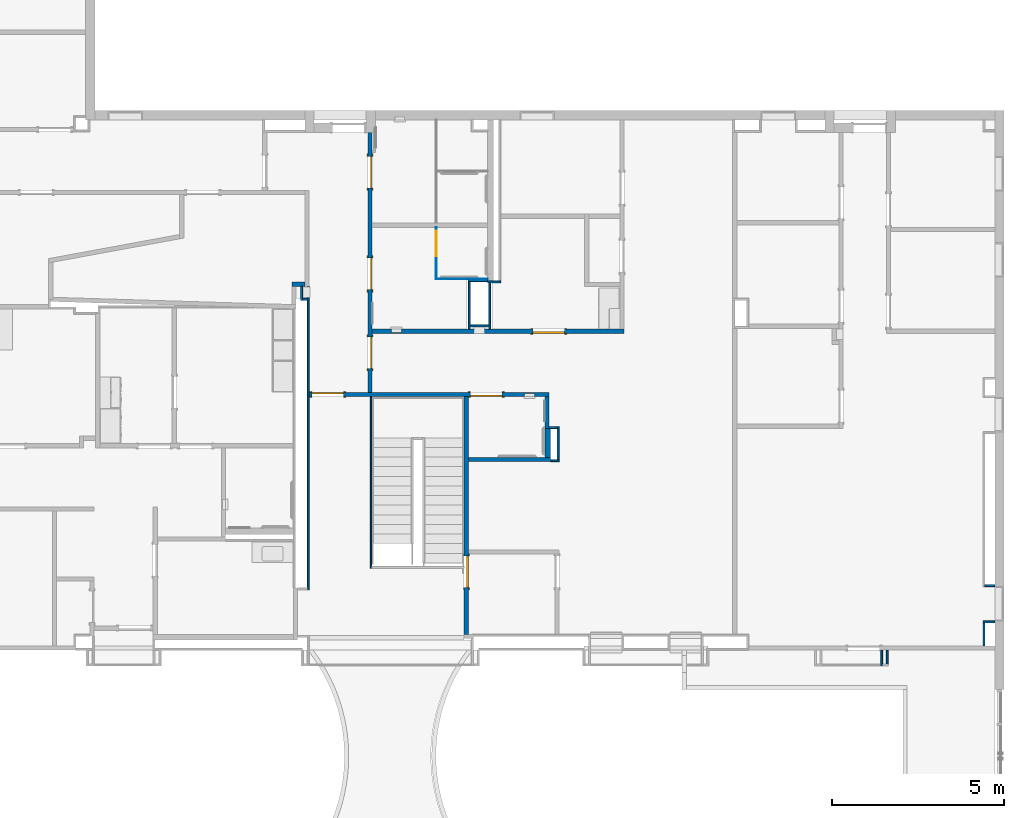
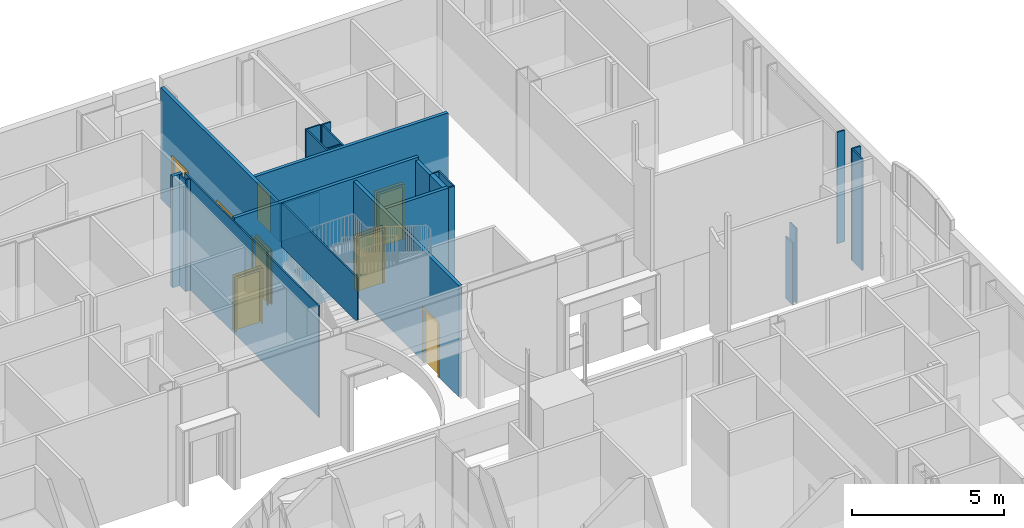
# One storey, part 39 of 87: 27 walls, 8 doors, 10 openings.
"""IFC2X3 building model written with IfcOpenShell, lengths in metres."""

import ifcopenshell
import ifcopenshell.guid

model = None  # the IFC model being written
_history = None  # IfcOwnerHistory: only IFC2X3 demands one
_inside = {}  # id of a spatial element -> (the spatial element, [elements in it])
_under = {}  # id of a project, library or spatial element -> (it, [spatial elements below it])
_declared = {}  # id of a project -> (the project, [libraries it declares])
_typed = {}  # id of a type object -> (the type object, [elements of that type])
_made_of = {}  # id of a material, layer set ... -> (it, [elements and type objects made of it])


def new_model(schema):
    """Start an empty IFC model of exactly this schema.

    Asked for "IFC4X3", IfcOpenShell would pick the latest addendum, in which some entities
    have other attributes; the version numbers below select the first issue.
    IFC2X3 requires an IfcOwnerHistory on every rooted entity: one is made here for all.
    """
    global model, _history
    if schema == "IFC4X3":
        model = ifcopenshell.file(schema_version=(4, 3, 0, 0))
    else:
        model = ifcopenshell.file(schema=schema)
    _inside.clear()
    _under.clear()
    _declared.clear()
    _typed.clear()
    _made_of.clear()
    _history = None
    if model.schema == "IFC2X3":
        org = make("IfcOrganization", Name="unknown")
        user = make(
            "IfcPersonAndOrganization",
            ThePerson=make("IfcPerson", FamilyName="unknown"),
            TheOrganization=org,
        )
        app = make(
            "IfcApplication",
            ApplicationDeveloper=org,
            Version="unknown",
            ApplicationFullName="unknown",
            ApplicationIdentifier="unknown",
        )
        _history = make(
            "IfcOwnerHistory",
            OwningUser=user,
            OwningApplication=app,
            ChangeAction="ADDED",
            CreationDate=0,
        )
    return model


def make(cls, **values):
    """One entity of the class cls with the attributes given. An attribute that is None is left unset."""
    return model.create_entity(
        cls, **{name: value for name, value in values.items() if value is not None}
    )


def entity(cls, *values):
    """Any entity or typed value of the class cls, its attributes in the order of the schema. None: left unset."""
    e = model.create_entity(cls)
    for i, value in enumerate(values):
        if value is not None:
            e[i] = value
    return e


def rooted(cls, **values):
    """An entity with a GlobalId (a new one), such as an element, a storey or a relation."""
    return make(cls, GlobalId=ifcopenshell.guid.new(), OwnerHistory=_history, **values)


def si_unit(unit_type, name, prefix=None):
    """IfcSIUnit, for example si_unit("LENGTHUNIT", "METRE", prefix="MILLI")."""
    return make("IfcSIUnit", UnitType=unit_type, Prefix=prefix, Name=name)


def converted_unit(unit_type, name, factor, base, dimensions=None, offset=None):
    """IfcConversionBasedUnit, such as the inch: factor (a typed value) times the base unit."""
    return make(
        "IfcConversionBasedUnit"
        if offset is None
        else "IfcConversionBasedUnitWithOffset",
        ConversionOffset=offset,
        Dimensions=None
        if dimensions is None
        else entity("IfcDimensionalExponents", *dimensions),
        UnitType=unit_type,
        Name=name,
        ConversionFactor=make(
            "IfcMeasureWithUnit", ValueComponent=factor, UnitComponent=base
        ),
    )


def assignment(units):
    """IfcUnitAssignment: the units of a project."""
    return None if units is None else make("IfcUnitAssignment", Units=units)


def point(xyz):
    """IfcCartesianPoint."""
    return None if xyz is None else make("IfcCartesianPoint", Coordinates=xyz)


def direction(xyz):
    """IfcDirection."""
    return None if xyz is None else make("IfcDirection", DirectionRatios=xyz)


def frame(location, z_axis=None, x_axis=None):
    """IfcAxis2Placement3D, a coordinate frame: its origin and axes. An axis left out is left unset."""
    return make(
        "IfcAxis2Placement3D",
        Location=point(location),
        Axis=direction(z_axis),
        RefDirection=direction(x_axis),
    )


def frame_2d(location, x_axis=None):
    """IfcAxis2Placement2D, a coordinate frame in the plane: its origin and x axis."""
    return make(
        "IfcAxis2Placement2D", Location=point(location), RefDirection=direction(x_axis)
    )


def origin():
    """The frame at (0, 0, 0) with its axes left unset."""
    return frame((0.0, 0.0, 0.0))


def origin_2d_with_axis():
    """The frame at (0, 0) in the plane with the x axis (1, 0) written out."""
    return frame_2d((0.0, 0.0), x_axis=(1.0, 0.0))


def place(relative_to, where):
    """IfcLocalPlacement: puts the frame where relative to a parent placement (None: the world)."""
    return make(
        "IfcLocalPlacement", PlacementRelTo=relative_to, RelativePlacement=where
    )


def context(
    kind, dimensions, precision=None, world=None, true_north=None, identifier=None
):
    """IfcGeometricRepresentationContext, for example the 3D "Model" context."""
    return make(
        "IfcGeometricRepresentationContext",
        ContextIdentifier=identifier,
        ContextType=kind,
        CoordinateSpaceDimension=dimensions,
        Precision=precision,
        WorldCoordinateSystem=world,
        TrueNorth=true_north,
    )


def project(units=None, contexts=None):
    """IfcProject with its units and contexts."""
    return rooted(
        "IfcProject",
        Name="project",
        RepresentationContexts=contexts,
        UnitsInContext=assignment(units),
    )


def spatial(cls, under=None, at=None, **own):
    """A site, building, storey or space (cls), placed at a placement, below another one or the project."""
    s = rooted(cls, ObjectPlacement=at, **own)
    if under is not None:
        _under.setdefault(under.id(), (under, []))[1].append(s)
    return s


def polyline(points):
    """IfcPolyline through the points."""
    return make("IfcPolyline", Points=[point(p) for p in points])


def profile(cls, at=None, kind="AREA", **sizes):
    """A parametric profile (cls). Its sizes go by their IFC names, for example OverallWidth=200.0."""
    return make(cls, ProfileType=kind, Position=at, **sizes)


def rectangle(**sizes):
    """IfcRectangleProfileDef."""
    return profile("IfcRectangleProfileDef", **sizes)


def outline(outer, holes=None, kind="AREA"):
    """IfcArbitraryClosedProfileDef: a profile drawn as a closed curve; with holes, ...WithVoids."""
    if holes is None:
        return make("IfcArbitraryClosedProfileDef", ProfileType=kind, OuterCurve=outer)
    return make(
        "IfcArbitraryProfileDefWithVoids",
        ProfileType=kind,
        OuterCurve=outer,
        InnerCurves=holes,
    )


def extrude(swept, where, along, depth):
    """IfcExtrudedAreaSolid: the profile swept, set in the frame where, extruded along a direction by depth."""
    return make(
        "IfcExtrudedAreaSolid",
        SweptArea=swept,
        Position=where,
        ExtrudedDirection=direction(along),
        Depth=depth,
    )


def shape(context_of_items, identifier, shape_type, items):
    """IfcShapeRepresentation: the items that make up one representation, for example the "Body"."""
    return make(
        "IfcShapeRepresentation",
        ContextOfItems=context_of_items,
        RepresentationIdentifier=identifier,
        RepresentationType=shape_type,
        Items=items,
    )


def source(mapping_origin, context_of_items, identifier, shape_type, items):
    """IfcRepresentationMap: a shape defined once, which mapped items show again and again."""
    return make(
        "IfcRepresentationMap",
        MappingOrigin=mapping_origin,
        MappedRepresentation=shape(context_of_items, identifier, shape_type, items),
    )


def transform(
    local_origin,
    x_axis=None,
    y_axis=None,
    z_axis=None,
    scale=None,
    scale2=None,
    scale3=None,
    uniform=True,
):
    """IfcCartesianTransformationOperator3D, or its non-uniform kind. x_axis, y_axis, z_axis: its Axis1, 2, 3."""
    if uniform:
        return make(
            "IfcCartesianTransformationOperator3D",
            Axis1=direction(x_axis),
            Axis2=direction(y_axis),
            LocalOrigin=point(local_origin),
            Scale=scale,
            Axis3=direction(z_axis),
        )
    return make(
        "IfcCartesianTransformationOperator3DnonUniform",
        Axis1=direction(x_axis),
        Axis2=direction(y_axis),
        LocalOrigin=point(local_origin),
        Scale=scale,
        Axis3=direction(z_axis),
        Scale2=scale2,
        Scale3=scale3,
    )


def mapped(mapping_source, mapping_target):
    """IfcMappedItem: shows the shape of a source again, moved by a transform."""
    return make(
        "IfcMappedItem", MappingSource=mapping_source, MappingTarget=mapping_target
    )


def material(Name=None, Category=None):
    """IfcMaterial."""
    return make("IfcMaterial", Name=Name, Category=Category)


def layer(
    of_material, thickness, ventilated=None, Name=None, Category=None, Priority=None
):
    """IfcMaterialLayer: one layer of a wall or slab, of a material (None: an air gap)."""
    return make(
        "IfcMaterialLayer",
        Material=of_material,
        LayerThickness=thickness,
        IsVentilated=ventilated,
        Name=Name,
        Category=Category,
        Priority=Priority,
    )


def layer_set(layers, Name=None):
    """IfcMaterialLayerSet."""
    return make("IfcMaterialLayerSet", MaterialLayers=layers, LayerSetName=Name)


def layer_usage(for_layer_set, set_direction, sense, offset, extent=None):
    """IfcMaterialLayerSetUsage: how a layer set lies in its element."""
    return make(
        "IfcMaterialLayerSetUsage",
        ForLayerSet=for_layer_set,
        LayerSetDirection=set_direction,
        DirectionSense=sense,
        OffsetFromReferenceLine=offset,
        ReferenceExtent=extent,
    )


def made_of(thing, what):
    """Note that an element or type object is made of a material, layer set ...; save() writes the relation."""
    if what is not None:
        _made_of.setdefault(what.id(), (what, []))[1].append(thing)
    return thing


def type_object(cls, material=None, **own):
    """A type object (cls), such as IfcWallType, which elements share."""
    return made_of(rooted(cls, **own), material)


def type_shapes(of_type, sources):
    """Give a type object the sources (RepresentationMaps) that its elements show as mapped items."""
    of_type.RepresentationMaps = sources


def element(
    cls,
    number,
    at=None,
    inside=None,
    cuts=None,
    type_object=None,
    material=None,
    context=None,
    identifier="Body",
    shape_type=None,
    held_by="IfcProductDefinitionShape",
    body=None,
    shapes=None,
    **own,
):
    """One element of the class cls, such as IfcWall. Its Tag is "e" and its number.

    at: its placement. inside: the storey or other place that contains it. cuts: it is an
    opening in that element (IfcRelVoidsElement). A single representation is given by context,
    identifier, shape_type and body (its items); several are given by shapes. held_by: the class
    of the entity that holds the representations. save() writes the other relations.
    """
    e = rooted(cls, Tag="e%d" % number, ObjectPlacement=at, **own)
    if body is not None:
        shapes = [shape(context, identifier, shape_type, body)]
    if shapes is not None:
        e.Representation = make(held_by, Representations=shapes)
    if inside is not None:
        _inside.setdefault(inside.id(), (inside, []))[1].append(e)
    if cuts is not None:
        rooted(
            "IfcRelVoidsElement", RelatingBuildingElement=cuts, RelatedOpeningElement=e
        )
    if type_object is not None:
        _typed.setdefault(type_object.id(), (type_object, []))[1].append(e)
    return made_of(e, material)


def fill(opening, filler):
    """IfcRelFillsElement: the door or window that sits in an opening."""
    return rooted(
        "IfcRelFillsElement",
        RelatingOpeningElement=opening,
        RelatedBuildingElement=filler,
    )


def aggregate(whole, parts):
    """IfcRelAggregates: a whole, such as a stair, and the parts it consists of."""
    return rooted("IfcRelAggregates", RelatingObject=whole, RelatedObjects=parts)


def save(model, path):
    """Write the relations noted so far, then the file.

    IfcRelAggregates (storeys below a building ...), IfcRelContainedInSpatialStructure (elements
    in a storey), IfcRelDefinesByType, IfcRelAssociatesMaterial and IfcRelDeclares: one each for
    every whole, place, type object, material and project.
    """
    for whole, parts in _under.values():
        aggregate(whole, parts)
    for where, things in _inside.values():
        rooted(
            "IfcRelContainedInSpatialStructure",
            RelatedElements=things,
            RelatingStructure=where,
        )
    for kind, things in _typed.values():
        rooted("IfcRelDefinesByType", RelatedObjects=things, RelatingType=kind)
    for what, things in _made_of.values():
        rooted("IfcRelAssociatesMaterial", RelatedObjects=things, RelatingMaterial=what)
    for by, libraries in _declared.values():
        rooted("IfcRelDeclares", RelatingContext=by, RelatedDefinitions=libraries)
    model.write(path)


model = new_model("IFC2X3")

# Units and contexts
model_context = context("Model", 3, precision=1e-09, world=origin())
plan_context = context("Plan", 3, precision=1e-09, world=origin())
ifc_project = project(units=[si_unit("LENGTHUNIT", "METRE"), si_unit("AREAUNIT", "SQUARE_METRE"), si_unit("VOLUMEUNIT", "CUBIC_METRE"), converted_unit("PLANEANGLEUNIT", "DEGREE", entity("IfcRatioMeasure", 0.01745329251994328), si_unit("PLANEANGLEUNIT", "RADIAN"), dimensions=[0, 0, 0, 0, 0, 0, 0]), si_unit("TIMEUNIT", "SECOND")], contexts=[model_context, plan_context])

# Site, building, storey
site_placement = place(None, origin())
site = spatial("IfcSite", under=ifc_project, at=site_placement, Name="Default", CompositionType="ELEMENT")
building_placement = place(site_placement, origin())
building = spatial("IfcBuilding", under=site, at=building_placement, CompositionType="ELEMENT")
storey_placement = place(building_placement, origin())
storey = spatial("IfcBuildingStorey", under=building, at=storey_placement, Name="First Floor", CompositionType="ELEMENT", Elevation=-3.531500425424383e-13)

# Wall
ifc_material_1 = material(Name="Plasterboard")
ifc_layer_1 = layer(ifc_material_1, 0.016)
ifc_material_2 = material(Name="Metal - Stud Layer")
ifc_layer_2 = layer(ifc_material_2, 0.092)
ifc_layer_3 = layer(ifc_material_1, 0.016)
ifc_layer_set_1 = layer_set([ifc_layer_1, ifc_layer_2, ifc_layer_3], Name="Basic Wall:Interior - Partition (92mm Stud)")
ifc_layer_usage_1 = layer_usage(ifc_layer_set_1, "AXIS2", "NEGATIVE", 0.062)
wall_1_placement = place(storey_placement, frame((-19.95400000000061, 45.42199999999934, 0.0), z_axis=(0.0, 0.0, 1.0), x_axis=(-1.0, 0.0, 0.0)))
element("IfcWallStandardCase", 1, at=wall_1_placement, inside=storey, material=ifc_layer_usage_1, Name="Basic Wall:Interior - Partition (92mm Stud)", ObjectType="Basic Wall:Interior - Partition (92mm Stud)", context=model_context, shape_type="SweptSolid", body=[
    extrude(rectangle(XDim=0.3750000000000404, YDim=0.1240000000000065, at=frame_2d((0.1875000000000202, 0.0), x_axis=(-1.0, 0.0))), origin(), (0.0, 0.0, 1.0), 4.468000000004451),
])

# Wall, openings, doors
ifc_layer_usage_2 = layer_usage(ifc_layer_set_1, "AXIS2", "NEGATIVE", 0.062)
wall_2_placement = place(storey_placement, frame((-18.0580000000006, 42.28000069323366, 0.0), z_axis=(0.0, 0.0, 1.0), x_axis=(0.0, 1.0, 0.0)))
wall_2 = element("IfcWallStandardCase", 2, at=wall_2_placement, inside=storey, material=ifc_layer_usage_2, Name="Basic Wall:Interior - Partition (92mm Stud)", ObjectType="Basic Wall:Interior - Partition (92mm Stud)", context=model_context, shape_type="SweptSolid", body=[
    extrude(rectangle(XDim=7.696499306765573, YDim=0.1240000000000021, at=frame_2d((3.848249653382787, 0.0), x_axis=(-1.0, 0.0))), origin(), (0.0, 0.0, 1.0), 4.468000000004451),
])
opening_1_placement = place(wall_2_placement, frame((6.862999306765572, 0.06199999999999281, 0.0)))
opening_1 = element("IfcOpeningElement", 3, at=opening_1_placement, cuts=wall_2, Name="M_Single-Flush:0915 x 2134mm:0915 x 2134mm:1", ObjectType="Opening", context=model_context, shape_type="SweptSolid", body=[
    extrude(rectangle(XDim=0.9149999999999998, YDim=2.134, at=frame_2d((1.067, 0.4574999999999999), x_axis=(0.0, -1.0))), frame((0.0, 0.0, 0.0), z_axis=(0.0, -1.0, 0.0), x_axis=(0.0, 0.0, 1.0)), (0.0, 0.0, 1.0), 0.124),
])
opening_2_placement = place(wall_2_placement, frame((3.899999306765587, 0.06199999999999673, 0.0)))
opening_2 = element("IfcOpeningElement", 4, at=opening_2_placement, cuts=wall_2, Name="M_Single-Flush:0915 x 2134mm:0915 x 2134mm:1", ObjectType="Opening", context=model_context, shape_type="SweptSolid", body=[
    extrude(rectangle(XDim=0.9149999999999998, YDim=2.134, at=frame_2d((1.067, 0.4575), x_axis=(0.0, 1.0))), frame((0.0, 0.0, 0.0), z_axis=(0.0, -1.0, 0.0), x_axis=(0.0, 0.0, 1.0)), (0.0, 0.0, 1.0), 0.124),
])
opening_3_placement = place(wall_2_placement, frame((1.609999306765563, 0.06199999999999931, 0.0)))
opening_3 = element("IfcOpeningElement", 5, at=opening_3_placement, cuts=wall_2, Name="M_Single-Flush:0915 x 2134mm:0915 x 2134mm:1", ObjectType="Opening", context=model_context, shape_type="SweptSolid", body=[
    extrude(rectangle(XDim=0.9149999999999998, YDim=2.134, at=frame_2d((1.067, 0.4575000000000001), x_axis=(0.0, -1.0))), frame((0.0, 0.0, 0.0), z_axis=(0.0, -1.0, 0.0), x_axis=(0.0, 0.0, 1.0)), (0.0, 0.0, 1.0), 0.124),
])
door_style_1 = type_object("IfcDoorStyle", Name="0915 x 2134mm", ConstructionType="NOTDEFINED", OperationType="SINGLE_SWING_RIGHT", ParameterTakesPrecedence=False, Sizeable=False)
shared_shape_1 = source(origin(), model_context, "Body", "SweptSolid", [
    extrude(outline(polyline([(-0.5335, -1.123999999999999), (0.5334999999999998, -1.123999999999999), (0.5334999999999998, 1.086), (0.4574999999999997, 1.086), (0.4574999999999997, -1.048000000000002), (-0.4574999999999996, -1.048000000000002), (-0.4574999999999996, 1.086), (-0.5335, 1.086), (-0.5335, -1.123999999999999)])), frame((0.4575000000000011, 0.1239999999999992, 1.086), z_axis=(0.0, 1.0, 0.0), x_axis=(1.0, 0.0, 0.0)), (0.0, 0.0, 1.0), 0.02499999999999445),
    extrude(outline(polyline([(-1.123999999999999, -0.5334999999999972), (1.085999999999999, -0.5334999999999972), (1.085999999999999, -0.4575000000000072), (-1.048, -0.4575000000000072), (-1.048, 0.4575000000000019), (1.085999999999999, 0.4575000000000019), (1.085999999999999, 0.5335000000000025), (-1.123999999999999, 0.5335000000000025), (-1.123999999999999, -0.5334999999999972)])), frame((0.4575000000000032, -0.02500000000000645, 1.085999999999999), z_axis=(0.0, 1.0, 0.0), x_axis=(0.0, 0.0, -1.0)), (0.0, 0.0, 1.0), 0.02500000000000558),
    extrude(rectangle(XDim=0.051, YDim=0.9149999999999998, at=origin_2d_with_axis()), frame((0.4575000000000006, 0.09849999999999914, 0.0), z_axis=(0.0, 0.0, 1.0), x_axis=(0.0, 1.0, 0.0)), (0.0, 0.0, 1.0), 2.133999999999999),
])
type_shapes(door_style_1, [shared_shape_1])
door_1_placement = place(opening_2_placement, frame((0.0, 0.0, 0.0), z_axis=(0.0, 0.0, 1.0), x_axis=(-1.0, 0.0, 0.0)))
door_1 = element("IfcDoor", 6, at=door_1_placement, inside=storey, type_object=door_style_1, Name="M_Single-Flush:0915 x 2134mm:0915 x 2134mm", ObjectType="0915 x 2134mm", OverallHeight=2.134, OverallWidth=0.9149999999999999, context=model_context, shape_type="MappedRepresentation", body=[
    mapped(shared_shape_1, transform((0.0, 0.0, 0.0), scale=1.0)),
])
fill(opening_2, door_1)
door_style_2 = type_object("IfcDoorStyle", Name="0915 x 2134mm", ConstructionType="NOTDEFINED", OperationType="SINGLE_SWING_LEFT", ParameterTakesPrecedence=False, Sizeable=False)
shared_shape_2 = source(origin(), model_context, "Body", "SweptSolid", [
    extrude(outline(polyline([(-0.5335, -1.123999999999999), (0.5334999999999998, -1.123999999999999), (0.5334999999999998, 1.086), (0.4574999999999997, 1.086), (0.4574999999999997, -1.048000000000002), (-0.4574999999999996, -1.048000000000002), (-0.4574999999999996, 1.086), (-0.5335, 1.086), (-0.5335, -1.123999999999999)])), frame((0.4575000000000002, 0.1489999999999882, 1.086), z_axis=(0.0, -1.0, 0.0), x_axis=(-1.0, 0.0, 0.0)), (0.0, 0.0, 1.0), 0.02499999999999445),
    extrude(outline(polyline([(-1.123999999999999, -0.5334999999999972), (1.085999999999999, -0.5334999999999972), (1.085999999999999, -0.4575000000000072), (-1.048, -0.4575000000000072), (-1.048, 0.4575000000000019), (1.085999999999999, 0.4575000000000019), (1.085999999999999, 0.5335000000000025), (-1.123999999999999, 0.5335000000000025), (-1.123999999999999, -0.5334999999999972)])), frame((0.4574999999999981, 0.0, 1.085999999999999), z_axis=(0.0, -1.0, 0.0), x_axis=(0.0, 0.0, -1.0)), (0.0, 0.0, 1.0), 0.02500000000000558),
    extrude(rectangle(XDim=0.9149999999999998, YDim=0.051, at=origin_2d_with_axis()), frame((0.4575000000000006, 0.09849999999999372, 0.0)), (0.0, 0.0, 1.0), 2.133999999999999),
])
type_shapes(door_style_2, [shared_shape_2])
door_2_placement = place(opening_1_placement, frame((0.0, 0.0, 0.0), z_axis=(0.0, 0.0, 1.0), x_axis=(-1.0, 0.0, 0.0)))
door_2 = element("IfcDoor", 7, at=door_2_placement, inside=storey, type_object=door_style_2, Name="M_Single-Flush:0915 x 2134mm:0915 x 2134mm", ObjectType="0915 x 2134mm", OverallHeight=2.134, OverallWidth=0.9149999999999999, context=model_context, shape_type="MappedRepresentation", body=[
    mapped(shared_shape_2, transform((0.0, 0.0, 0.0), scale=1.0)),
])
fill(opening_1, door_2)
door_3_placement = place(opening_3_placement, frame((0.0, 0.0, 0.0), z_axis=(0.0, 0.0, 1.0), x_axis=(-1.0, 0.0, 0.0)))
door_3 = element("IfcDoor", 8, at=door_3_placement, inside=storey, type_object=door_style_2, Name="M_Single-Flush:0915 x 2134mm:0915 x 2134mm", ObjectType="0915 x 2134mm", OverallHeight=2.134, OverallWidth=0.9149999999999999, context=model_context, shape_type="MappedRepresentation", body=[
    mapped(shared_shape_2, transform((0.0, 0.0, 0.0), scale=1.0)),
])
fill(opening_3, door_3)

# Wall
ifc_layer_4 = layer(ifc_material_2, 0.038)
ifc_layer_5 = layer(ifc_material_1, 0.016)
ifc_layer_set_2 = layer_set([ifc_layer_4, ifc_layer_5], Name="Basic Wall:Interior - Furring (38 mm Stud)")
ifc_layer_usage_3 = layer_usage(ifc_layer_set_2, "AXIS2", "POSITIVE", -0.027)
wall_3_placement = place(storey_placement, frame((-14.26000000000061, 45.49200003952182, 0.0), z_axis=(0.0, 0.0, 1.0), x_axis=(-1.0, 0.0, 0.0)))
element("IfcWallStandardCase", 9, at=wall_3_placement, inside=storey, material=ifc_layer_usage_3, Name="Basic Wall:Interior - Furring (38 mm Stud)", ObjectType="Basic Wall:Interior - Furring (38 mm Stud)", context=model_context, shape_type="SweptSolid", body=[
    extrude(rectangle(XDim=0.3799999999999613, YDim=0.05400000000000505, at=frame_2d((0.1899999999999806, 0.0), x_axis=(-1.0, 0.0))), origin(), (0.0, 0.0, 1.0), 4.468000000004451),
])

# Wall, openings, door
ifc_layer_usage_4 = layer_usage(ifc_layer_set_1, "AXIS2", "NEGATIVE", 0.062)
wall_4_placement = place(storey_placement, frame((-10.67000000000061, 44.05199999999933, 0.0), z_axis=(0.0, 0.0, 1.0), x_axis=(-1.0, 0.0, 0.0)))
wall_4 = element("IfcWallStandardCase", 10, at=wall_4_placement, inside=storey, material=ifc_layer_usage_4, Name="Basic Wall:Interior - Partition (92mm Stud)", ObjectType="Basic Wall:Interior - Partition (92mm Stud)", context=model_context, shape_type="SweptSolid", body=[
    extrude(rectangle(XDim=7.325999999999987, YDim=0.1240000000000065, at=frame_2d((3.662999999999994, 0.0), x_axis=(-1.0, 0.0))), origin(), (0.0, 0.0, 1.0), 4.468000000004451),
])
opening_4_placement = place(wall_4_placement, origin())
element("IfcOpeningElement", 11, at=opening_4_placement, cuts=wall_4, ObjectType="Opening", context=model_context, shape_type="SweptSolid", body=[
    extrude(rectangle(XDim=1.362075, YDim=0.2984499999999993, at=origin_2d_with_axis()), frame((6.620900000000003, -0.1255000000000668, 1.041399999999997), z_axis=(0.0, 1.0, 0.0), x_axis=(0.0, 0.0, -1.0)), (0.0, 0.0, 1.0), 0.15240000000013),
])
opening_5_placement = place(wall_4_placement, frame((1.730999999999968, -0.06200000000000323, 0.0)))
opening_5 = element("IfcOpeningElement", 12, at=opening_5_placement, cuts=wall_4, Name="M_Single-Flush:0915 x 2134mm:0915 x 2134mm:1", ObjectType="Opening", context=model_context, shape_type="SweptSolid", body=[
    extrude(rectangle(XDim=0.9149999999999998, YDim=2.134, at=frame_2d((1.067, 0.4575), x_axis=(0.0, 1.0))), frame((0.0, 0.0, 0.0), z_axis=(0.0, 1.0, 0.0), x_axis=(0.0, 0.0, 1.0)), (0.0, 0.0, 1.0), 0.124),
])
door_4_placement = place(opening_5_placement, origin())
door_4 = element("IfcDoor", 13, at=door_4_placement, inside=storey, type_object=door_style_1, Name="M_Single-Flush:0915 x 2134mm:0915 x 2134mm", ObjectType="0915 x 2134mm", OverallHeight=2.134, OverallWidth=0.9149999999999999, context=model_context, shape_type="MappedRepresentation", body=[
    mapped(shared_shape_1, transform((0.0, 0.0, 0.0), scale=1.0)),
])
fill(opening_5, door_4)

# Wall, opening, door
ifc_layer_usage_5 = layer_usage(ifc_layer_set_1, "AXIS2", "NEGATIVE", 0.062)
wall_5_placement = place(storey_placement, frame((-15.25800000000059, 35.23999999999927, 0.0), z_axis=(0.0, 0.0, 1.0), x_axis=(0.0, 1.0, 0.0)))
wall_5 = element("IfcWallStandardCase", 14, at=wall_5_placement, inside=storey, material=ifc_layer_usage_5, Name="Basic Wall:Interior - Partition (92mm Stud)", ObjectType="Basic Wall:Interior - Partition (92mm Stud)", context=model_context, shape_type="SweptSolid", body=[
    extrude(rectangle(XDim=6.916000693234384, YDim=0.1240000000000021, at=frame_2d((3.458000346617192, 0.0), x_axis=(-1.0, 0.0))), origin(), (0.0, 0.0, 1.0), 4.46800000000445),
])
opening_6_placement = place(wall_5_placement, frame((2.275999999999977, 0.0619999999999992, 0.0)))
opening_6 = element("IfcOpeningElement", 15, at=opening_6_placement, cuts=wall_5, Name="M_Single-Flush:0915 x 2134mm:0915 x 2134mm:1", ObjectType="Opening", context=model_context, shape_type="SweptSolid", body=[
    extrude(rectangle(XDim=0.9149999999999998, YDim=2.134, at=frame_2d((1.067, 0.4575000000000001), x_axis=(0.0, -1.0))), frame((0.0, 0.0, 0.0), z_axis=(0.0, -1.0, 0.0), x_axis=(0.0, 0.0, 1.0)), (0.0, 0.0, 1.0), 0.124),
])
door_5_placement = place(opening_6_placement, frame((0.0, 0.0, 0.0), z_axis=(0.0, 0.0, 1.0), x_axis=(-1.0, 0.0, 0.0)))
door_5 = element("IfcDoor", 16, at=door_5_placement, inside=storey, type_object=door_style_2, Name="M_Single-Flush:0915 x 2134mm:0915 x 2134mm", ObjectType="0915 x 2134mm", OverallHeight=2.134, OverallWidth=0.9149999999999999, context=model_context, shape_type="MappedRepresentation", body=[
    mapped(shared_shape_2, transform((0.0, 0.0, 0.0), scale=1.0)),
])
fill(opening_6, door_5)

# Wall, openings, doors
ifc_layer_usage_6 = layer_usage(ifc_layer_set_1, "AXIS2", "NEGATIVE", 0.062)
wall_6_placement = place(storey_placement, frame((-19.83000000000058, 42.21800069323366, 0.0)))
wall_6 = element("IfcWallStandardCase", 17, at=wall_6_placement, inside=storey, material=ifc_layer_usage_6, Name="Basic Wall:Interior - Partition (92mm Stud)", ObjectType="Basic Wall:Interior - Partition (92mm Stud)", context=model_context, shape_type="SweptSolid", body=[
    extrude(rectangle(XDim=6.979999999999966, YDim=0.1240000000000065, at=frame_2d((3.489999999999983, 0.0), x_axis=(-1.0, 0.0))), origin(), (0.0, 0.0, 1.0), 4.570000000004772),
])
opening_7_placement = place(wall_6_placement, origin())
element("IfcOpeningElement", 18, at=opening_7_placement, cuts=wall_6, ObjectType="Opening", context=model_context, shape_type="SweptSolid", body=[
    extrude(rectangle(XDim=1.362075, YDim=0.2984499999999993, at=origin_2d_with_axis()), frame((6.410899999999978, -0.1255000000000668, 1.041399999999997), z_axis=(0.0, 1.0, 0.0), x_axis=(0.0, 0.0, -1.0)), (0.0, 0.0, 1.0), 0.15240000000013),
])
opening_8_placement = place(wall_6_placement, frame((5.609000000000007, 0.06199999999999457, 0.0)))
opening_8 = element("IfcOpeningElement", 19, at=opening_8_placement, cuts=wall_6, Name="M_Single-Flush:0915 x 2134mm:0915 x 2134mm:1", ObjectType="Opening", context=model_context, shape_type="SweptSolid", body=[
    extrude(rectangle(XDim=0.9149999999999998, YDim=2.134, at=frame_2d((1.067, 0.4575), x_axis=(0.0, 1.0))), frame((0.0, 0.0, 0.0), z_axis=(0.0, -1.0, 0.0), x_axis=(0.0, 0.0, 1.0)), (0.0, 0.0, 1.0), 0.124),
])
opening_9_placement = place(wall_6_placement, frame((0.07999999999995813, -0.06199999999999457, 0.0)))
opening_9 = element("IfcOpeningElement", 20, at=opening_9_placement, cuts=wall_6, Name="M_Single-Flush:0915 x 2134mm:0915 x 2134mm:1", ObjectType="Opening", context=model_context, shape_type="SweptSolid", body=[
    extrude(rectangle(XDim=0.9149999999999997, YDim=2.134, at=frame_2d((1.067, 0.4575000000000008), x_axis=(0.0, -1.0))), frame((0.0, 0.0, 0.0), z_axis=(0.0, 1.0, 0.0), x_axis=(0.0, 0.0, 1.0)), (0.0, 0.0, 1.0), 0.124),
])
door_6_placement = place(opening_8_placement, frame((0.0, 0.0, 0.0), z_axis=(0.0, 0.0, 1.0), x_axis=(-1.0, 0.0, 0.0)))
door_6 = element("IfcDoor", 21, at=door_6_placement, inside=storey, type_object=door_style_1, Name="M_Single-Flush:0915 x 2134mm:0915 x 2134mm", ObjectType="0915 x 2134mm", OverallHeight=2.134, OverallWidth=0.9149999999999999, context=model_context, shape_type="MappedRepresentation", body=[
    mapped(shared_shape_1, transform((0.0, 0.0, 0.0), scale=1.0)),
])
fill(opening_8, door_6)
door_7_placement = place(opening_9_placement, origin())
door_7 = element("IfcDoor", 22, at=door_7_placement, inside=storey, type_object=door_style_2, Name="M_Single-Flush:0915 x 2134mm:0915 x 2134mm", ObjectType="0915 x 2134mm", OverallHeight=2.134, OverallWidth=0.9149999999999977, context=model_context, shape_type="MappedRepresentation", body=[
    mapped(shared_shape_2, transform((0.0, 0.0, 0.0), scale=1.0)),
])
fill(opening_9, door_7)

# Walls
ifc_layer_usage_7 = layer_usage(ifc_layer_set_1, "AXIS2", "NEGATIVE", 0.062)
wall_7_placement = place(storey_placement, frame((-12.91200000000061, 42.15600069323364, 0.0), z_axis=(0.0, 0.0, 1.0), x_axis=(0.0, -1.0, 0.0)))
element("IfcWallStandardCase", 23, at=wall_7_placement, inside=storey, material=ifc_layer_usage_7, Name="Basic Wall:Interior - Partition (92mm Stud)", ObjectType="Basic Wall:Interior - Partition (92mm Stud)", context=model_context, shape_type="SweptSolid", body=[
    extrude(rectangle(XDim=0.9300006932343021, YDim=0.1240000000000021, at=frame_2d((0.4650003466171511, 0.0), x_axis=(-1.0, 0.0))), origin(), (0.0, 0.0, 1.0), 4.46800000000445),
])
ifc_layer_usage_8 = layer_usage(ifc_layer_set_1, "AXIS2", "NEGATIVE", 0.062)
wall_8_placement = place(storey_placement, frame((-12.80600000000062, 40.32199999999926, 0.0), z_axis=(0.0, 0.0, 1.0), x_axis=(-1.0, 0.0, 0.0)))
element("IfcWallStandardCase", 24, at=wall_8_placement, inside=storey, material=ifc_layer_usage_8, Name="Basic Wall:Interior - Partition (92mm Stud)", ObjectType="Basic Wall:Interior - Partition (92mm Stud)", context=model_context, shape_type="SweptSolid", body=[
    extrude(rectangle(XDim=2.389999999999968, YDim=0.1240000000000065, at=frame_2d((1.194999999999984, 0.0), x_axis=(-1.0, 0.0))), origin(), (0.0, 0.0, 1.0), 4.468000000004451),
])
ifc_layer_6 = layer(ifc_material_2, 0.152)
ifc_layer_7 = layer(ifc_material_1, 0.016)
ifc_layer_set_3 = layer_set([ifc_layer_6, ifc_layer_7], Name="Basic Wall:Interior - Furring (152 mm Stud)")
ifc_layer_usage_9 = layer_usage(ifc_layer_set_3, "AXIS2", "POSITIVE", -0.08399999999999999)
wall_9_placement = place(storey_placement, frame((-12.89000000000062, 40.38399999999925, 0.0), z_axis=(0.0, 0.0, 1.0), x_axis=(0.0, 1.0, 0.0)))
element("IfcWallStandardCase", 25, at=wall_9_placement, inside=storey, material=ifc_layer_usage_9, Name="Basic Wall:Interior - Furring (152 mm Stud)", ObjectType="Basic Wall:Interior - Furring (152 mm Stud)", context=model_context, shape_type="SweptSolid", body=[
    extrude(rectangle(XDim=0.8420000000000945, YDim=0.1680000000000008, at=frame_2d((0.4210000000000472, 0.0), x_axis=(-1.0, 0.0))), origin(), (0.0, 0.0, 1.0), 4.46800000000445),
])
ifc_layer_usage_10 = layer_usage(ifc_layer_set_2, "AXIS2", "POSITIVE", -0.027)
wall_10_placement = place(storey_placement, frame((-20.04850000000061, 45.35999999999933, 0.0), z_axis=(0.0, 0.0, 1.0), x_axis=(0.0, -1.0, 0.0)))
element("IfcWallStandardCase", 26, at=wall_10_placement, inside=storey, material=ifc_layer_usage_10, Name="Basic Wall:Interior - Furring (38 mm Stud)", ObjectType="Basic Wall:Interior - Furring (38 mm Stud)", context=model_context, shape_type="SweptSolid", body=[
    extrude(rectangle(XDim=0.4040000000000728, YDim=0.05399999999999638, at=frame_2d((0.2020000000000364, 0.0), x_axis=(-1.0, 0.0))), origin(), (0.0, 0.0, 1.0), 4.46800000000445),
])
ifc_layer_usage_11 = layer_usage(ifc_layer_set_2, "AXIS2", "NEGATIVE", 0.027)
wall_11_placement = place(storey_placement, frame((-3.176500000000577, 34.77999999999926, 0.0), z_axis=(0.0, 0.0, 1.0), x_axis=(0.0, -1.0, 0.0)))
element("IfcWallStandardCase", 27, at=wall_11_placement, inside=storey, material=ifc_layer_usage_11, Name="Basic Wall:Interior - Furring (38 mm Stud)", ObjectType="Basic Wall:Interior - Furring (38 mm Stud)", context=model_context, shape_type="SweptSolid", body=[
    extrude(rectangle(XDim=0.4599999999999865, YDim=0.05399999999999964, at=frame_2d((0.2299999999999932, 0.0), x_axis=(-1.0, 0.0))), origin(), (0.0, 0.0, 1.0), 2.5),
])
ifc_layer_usage_12 = layer_usage(ifc_layer_set_2, "AXIS2", "NEGATIVE", 0.027)
wall_12_placement = place(storey_placement, frame((-3.015500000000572, 34.37399999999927, 0.0), z_axis=(0.0, 0.0, 1.0), x_axis=(0.0, 1.0, 0.0)))
element("IfcWallStandardCase", 28, at=wall_12_placement, inside=storey, material=ifc_layer_usage_12, Name="Basic Wall:Interior - Furring (38 mm Stud)", ObjectType="Basic Wall:Interior - Furring (38 mm Stud)", context=model_context, shape_type="SweptSolid", body=[
    extrude(rectangle(XDim=0.4059999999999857, YDim=0.05399999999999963, at=frame_2d((0.2029999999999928, 0.0), x_axis=(-1.0, 0.0))), origin(), (0.0, 0.0, 1.0), 3.0),
])
ifc_layer_usage_13 = layer_usage(ifc_layer_set_2, "AXIS2", "NEGATIVE", 0.027)
wall_13_placement = place(storey_placement, frame((0.1129999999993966, 35.60291185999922, 0.0), z_axis=(0.0, 0.0, 1.0), x_axis=(-1.0, 0.0, 0.0)))
element("IfcWallStandardCase", 29, at=wall_13_placement, inside=storey, material=ifc_layer_usage_13, Name="Basic Wall:Interior - Furring (38 mm Stud)", ObjectType="Basic Wall:Interior - Furring (38 mm Stud)", context=model_context, shape_type="SweptSolid", body=[
    extrude(rectangle(XDim=0.3429999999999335, YDim=0.05399999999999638, at=frame_2d((0.1714999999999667, 0.0), x_axis=(-1.0, 0.0))), origin(), (0.0, 0.0, 1.0), 4.46800000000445),
])
ifc_layer_usage_14 = layer_usage(ifc_layer_set_2, "AXIS2", "NEGATIVE", 0.027)
wall_14_placement = place(storey_placement, frame((-0.2030000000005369, 35.57591185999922, 0.0), z_axis=(0.0, 0.0, 1.0), x_axis=(0.0, -1.0, 0.0)))
element("IfcWallStandardCase", 30, at=wall_14_placement, inside=storey, material=ifc_layer_usage_14, Name="Basic Wall:Interior - Furring (38 mm Stud)", ObjectType="Basic Wall:Interior - Furring (38 mm Stud)", context=model_context, shape_type="SweptSolid", body=[
    extrude(rectangle(XDim=0.6719118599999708, YDim=0.05400000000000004, at=frame_2d((0.3359559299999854, 0.0), x_axis=(-1.0, 0.0))), origin(), (0.0, 0.0, 1.0), 4.46800000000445),
])
ifc_layer_usage_15 = layer_usage(ifc_layer_set_2, "AXIS2", "NEGATIVE", 0.027)
wall_15_placement = place(storey_placement, frame((-0.1760000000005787, 36.65691185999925, 0.0)))
element("IfcWallStandardCase", 31, at=wall_15_placement, inside=storey, material=ifc_layer_usage_15, Name="Basic Wall:Interior - Furring (38 mm Stud)", ObjectType="Basic Wall:Interior - Furring (38 mm Stud)", context=model_context, shape_type="SweptSolid", body=[
    extrude(rectangle(XDim=0.2889999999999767, YDim=0.05399999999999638, at=frame_2d((0.1444999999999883, 0.0), x_axis=(-1.0, 0.0))), origin(), (0.0, 0.0, 1.0), 4.46800000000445),
])
ifc_layer_usage_16 = layer_usage(ifc_layer_set_2, "AXIS2", "NEGATIVE", 0.027)
wall_16_placement = place(storey_placement, frame((-12.80600000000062, 40.28699999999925, 0.0)))
element("IfcWallStandardCase", 32, at=wall_16_placement, inside=storey, material=ifc_layer_usage_16, Name="Basic Wall:Interior - Furring (38 mm Stud)", ObjectType="Basic Wall:Interior - Furring (38 mm Stud)", context=model_context, shape_type="SweptSolid", body=[
    extrude(rectangle(XDim=0.2459999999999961, YDim=0.05400000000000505, at=frame_2d((0.122999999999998, 0.0), x_axis=(-1.0, 0.0))), origin(), (0.0, 0.0, 1.0), 4.46800000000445),
])
ifc_layer_usage_17 = layer_usage(ifc_layer_set_2, "AXIS2", "NEGATIVE", 0.027)
wall_17_placement = place(storey_placement, frame((-12.58700000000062, 40.31399999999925, 0.0), z_axis=(0.0, 0.0, 1.0), x_axis=(0.0, 1.0, 0.0)))
element("IfcWallStandardCase", 33, at=wall_17_placement, inside=storey, material=ifc_layer_usage_17, Name="Basic Wall:Interior - Furring (38 mm Stud)", ObjectType="Basic Wall:Interior - Furring (38 mm Stud)", context=model_context, shape_type="SweptSolid", body=[
    extrude(rectangle(XDim=0.9660000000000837, YDim=0.05400000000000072, at=frame_2d((0.4830000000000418, 0.0), x_axis=(-1.0, 0.0))), origin(), (0.0, 0.0, 1.0), 4.46800000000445),
])
ifc_layer_usage_18 = layer_usage(ifc_layer_set_2, "AXIS2", "NEGATIVE", 0.027)
wall_18_placement = place(storey_placement, frame((-12.61400000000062, 41.25299999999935, 0.0), z_axis=(0.0, 0.0, 1.0), x_axis=(-1.0, 0.0, 0.0)))
element("IfcWallStandardCase", 34, at=wall_18_placement, inside=storey, material=ifc_layer_usage_18, Name="Basic Wall:Interior - Furring (38 mm Stud)", ObjectType="Basic Wall:Interior - Furring (38 mm Stud)", context=model_context, shape_type="SweptSolid", body=[
    extrude(rectangle(XDim=0.2359999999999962, YDim=0.05400000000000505, at=frame_2d((0.1179999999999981, 0.0), x_axis=(-1.0, 0.0))), origin(), (0.0, 0.0, 1.0), 4.46800000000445),
])
ifc_layer_usage_19 = layer_usage(ifc_layer_set_2, "AXIS2", "NEGATIVE", 0.027)
wall_19_placement = place(storey_placement, frame((-19.85700000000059, 36.53499999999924, 0.0), z_axis=(0.0, 0.0, 1.0), x_axis=(0.0, 1.0, 0.0)))
element("IfcWallStandardCase", 35, at=wall_19_placement, inside=storey, material=ifc_layer_usage_19, Name="Basic Wall:Interior - Furring (38 mm Stud)", ObjectType="Basic Wall:Interior - Furring (38 mm Stud)", context=model_context, shape_type="SweptSolid", body=[
    extrude(rectangle(XDim=8.825000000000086, YDim=0.05399999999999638, at=frame_2d((4.412500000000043, 0.0), x_axis=(-1.0, 0.0))), origin(), (0.0, 0.0, 1.0), 4.46800000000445),
])
ifc_layer_usage_20 = layer_usage(ifc_layer_set_2, "AXIS2", "NEGATIVE", 0.027)
wall_20_placement = place(storey_placement, frame((-19.88400000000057, 44.98299999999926, 0.0), z_axis=(0.0, 0.0, 1.0), x_axis=(-1.0, 0.0, 0.0)))
element("IfcWallStandardCase", 36, at=wall_20_placement, inside=storey, material=ifc_layer_usage_20, Name="Basic Wall:Interior - Furring (38 mm Stud)", ObjectType="Basic Wall:Interior - Furring (38 mm Stud)", context=model_context, shape_type="SweptSolid", body=[
    extrude(rectangle(XDim=0.137500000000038, YDim=0.05400000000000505, at=frame_2d((0.06875000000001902, 0.0), x_axis=(-1.0, 0.0))), origin(), (0.0, 0.0, 1.0), 4.46800000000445),
])
ifc_layer_usage_21 = layer_usage(ifc_layer_set_2, "AXIS2", "NEGATIVE", 0.027)
wall_21_placement = place(storey_placement, frame((-14.64000000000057, 45.52800003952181, 0.0), z_axis=(0.0, 0.0, 1.0), x_axis=(-1.0, 0.0, 0.0)))
element("IfcWallStandardCase", 37, at=wall_21_placement, inside=storey, material=ifc_layer_usage_21, Name="Basic Wall:Interior - Furring (38 mm Stud)", ObjectType="Basic Wall:Interior - Furring (38 mm Stud)", context=model_context, shape_type="SweptSolid", body=[
    extrude(rectangle(XDim=0.559999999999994, YDim=0.05400000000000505, at=frame_2d((0.279999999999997, 0.0), x_axis=(-1.0, 0.0))), origin(), (0.0, 0.0, 1.0), 4.46800000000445),
])
ifc_layer_usage_22 = layer_usage(ifc_layer_set_2, "AXIS2", "NEGATIVE", 0.027)
wall_22_placement = place(storey_placement, frame((-15.17300000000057, 45.50100003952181, 0.0), z_axis=(0.0, 0.0, 1.0), x_axis=(0.0, -1.0, 0.0)))
element("IfcWallStandardCase", 38, at=wall_22_placement, inside=storey, material=ifc_layer_usage_22, Name="Basic Wall:Interior - Furring (38 mm Stud)", ObjectType="Basic Wall:Interior - Furring (38 mm Stud)", context=model_context, shape_type="SweptSolid", body=[
    extrude(rectangle(XDim=1.387000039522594, YDim=0.05400000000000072, at=frame_2d((0.6935000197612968, 0.0), x_axis=(-1.0, 0.0))), origin(), (0.0, 0.0, 1.0), 4.46800000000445),
])
ifc_layer_usage_23 = layer_usage(ifc_layer_set_2, "AXIS2", "NEGATIVE", 0.027)
wall_23_placement = place(storey_placement, frame((-14.57700000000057, 44.11399999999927, 0.0), z_axis=(0.0, 0.0, 1.0), x_axis=(0.0, 1.0, 0.0)))
element("IfcWallStandardCase", 39, at=wall_23_placement, inside=storey, material=ifc_layer_usage_23, Name="Basic Wall:Interior - Furring (38 mm Stud)", ObjectType="Basic Wall:Interior - Furring (38 mm Stud)", context=model_context, shape_type="SweptSolid", body=[
    extrude(rectangle(XDim=1.351000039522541, YDim=0.05400000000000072, at=frame_2d((0.6755000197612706, 0.0), x_axis=(-1.0, 0.0))), origin(), (0.0, 0.0, 1.0), 4.46800000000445),
])
ifc_layer_usage_24 = layer_usage(ifc_layer_set_2, "AXIS2", "POSITIVE", -0.027)
wall_24_placement = place(storey_placement, frame((-14.60400000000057, 44.21099999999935, 0.0), z_axis=(0.0, 0.0, 1.0), x_axis=(-1.0, 0.0, 0.0)))
element("IfcWallStandardCase", 40, at=wall_24_placement, inside=storey, material=ifc_layer_usage_24, Name="Basic Wall:Interior - Furring (38 mm Stud)", ObjectType="Basic Wall:Interior - Furring (38 mm Stud)", context=model_context, shape_type="SweptSolid", body=[
    extrude(rectangle(XDim=0.5420000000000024, YDim=0.05400000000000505, at=frame_2d((0.2710000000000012, 0.0), x_axis=(-1.0, 0.0))), origin(), (0.0, 0.0, 1.0), 4.46800000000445),
])
ifc_layer_usage_25 = layer_usage(ifc_layer_set_2, "AXIS2", "POSITIVE", -0.027)
wall_25_placement = place(storey_placement, frame((-18.03200000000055, 42.15600069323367, 2.8), z_axis=(0.0, 0.0, 1.0), x_axis=(0.0, -1.0, 0.0)))
element("IfcWallStandardCase", 41, at=wall_25_placement, inside=storey, material=ifc_layer_usage_25, Name="Basic Wall:Interior - Furring (38 mm Stud)", ObjectType="Basic Wall:Interior - Furring (38 mm Stud)", context=model_context, shape_type="SweptSolid", body=[
    extrude(rectangle(XDim=4.992972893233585, YDim=0.05400000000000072, at=frame_2d((2.496486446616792, 0.0), x_axis=(-1.0, 0.0))), origin(), (0.0, 0.0, 1.0), 1.770000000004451),
])

# Wall, opening, door
ifc_material_3 = material(Name="Laminate - Ivory, Matte")
ifc_layer_8 = layer(ifc_material_3, 0.025)
ifc_layer_set_4 = layer_set([ifc_layer_8], Name="Basic Wall:Interior - Toilet Partition (25mm)")
ifc_layer_usage_26 = layer_usage(ifc_layer_set_4, "AXIS2", "NEGATIVE", 0.0125)
wall_26_placement = place(storey_placement, frame((-16.1274996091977, 45.56399937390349, 0.25), z_axis=(0.0, 0.0, 1.0), x_axis=(0.0, 1.0, 0.0)))
wall_26 = element("IfcWallStandardCase", 42, at=wall_26_placement, inside=storey, material=ifc_layer_usage_26, Name="Basic Wall:Interior - Toilet Partition (25mm)", ObjectType="Basic Wall:Interior - Toilet Partition (25mm)", context=model_context, shape_type="SweptSolid", body=[
    extrude(rectangle(XDim=1.516000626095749, YDim=0.02499999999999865, at=frame_2d((0.7580003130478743, 0.0), x_axis=(-1.0, 0.0))), origin(), (0.0, 0.0, 1.0), 1.5),
])
opening_10_placement = place(wall_26_placement, frame((0.6110006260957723, -0.01250000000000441, 0.0)))
opening_10 = element("IfcOpeningElement", 43, at=opening_10_placement, cuts=wall_26, Name="M_Toilet Partition:0865 x 1500mm:0865 x 1500mm:1", ObjectType="Opening", context=model_context, shape_type="SweptSolid", body=[
    extrude(rectangle(XDim=0.8649999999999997, YDim=1.5, at=frame_2d((0.7499999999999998, 0.4324999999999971), x_axis=(0.0, 1.0))), frame((0.0, 0.0, 0.0), z_axis=(0.0, 1.0, 0.0), x_axis=(0.0, 0.0, 1.0)), (0.0, 0.0, 1.0), 0.025),
])
door_style_3 = type_object("IfcDoorStyle", Name="0865 x 1500mm", ConstructionType="NOTDEFINED", OperationType="SINGLE_SWING_RIGHT", ParameterTakesPrecedence=False, Sizeable=False)
shared_shape_3 = source(origin(), model_context, "Body", "SweptSolid", [
    extrude(rectangle(XDim=0.025, YDim=0.8649999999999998, at=origin_2d_with_axis()), frame((0.4325000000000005, 0.0124999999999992, 0.0), z_axis=(0.0, 0.0, 1.0), x_axis=(0.0, 1.0, 0.0)), (0.0, 0.0, 1.0), 1.499999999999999),
])
type_shapes(door_style_3, [shared_shape_3])
door_8_placement = place(opening_10_placement, origin())
door_8 = element("IfcDoor", 44, at=door_8_placement, inside=storey, type_object=door_style_3, Name="M_Toilet Partition:0865 x 1500mm:0865 x 1500mm", ObjectType="0865 x 1500mm", OverallHeight=1.5, OverallWidth=0.8650000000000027, context=model_context, shape_type="MappedRepresentation", body=[
    mapped(shared_shape_3, transform((0.0, 0.0, 0.0), scale=1.0)),
])
fill(opening_10, door_8)

# Wall
ifc_layer_usage_27 = layer_usage(ifc_layer_set_4, "AXIS2", "NEGATIVE", 0.0125)
wall_27_placement = place(storey_placement, frame((-14.64000000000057, 45.57649937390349, 0.25), z_axis=(0.0, 0.0, 1.0), x_axis=(-1.0, 0.0, 0.0)))
element("IfcWallStandardCase", 45, at=wall_27_placement, inside=storey, material=ifc_layer_usage_27, Name="Basic Wall:Interior - Toilet Partition (25mm)", ObjectType="Basic Wall:Interior - Toilet Partition (25mm)", context=model_context, shape_type="SweptSolid", body=[
    extrude(rectangle(XDim=1.474999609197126, YDim=0.02499999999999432, at=frame_2d((0.7374998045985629, 0.0), x_axis=(-1.0, 0.0))), origin(), (0.0, 0.0, 1.0), 1.5),
])

save(model, "model.ifc")
